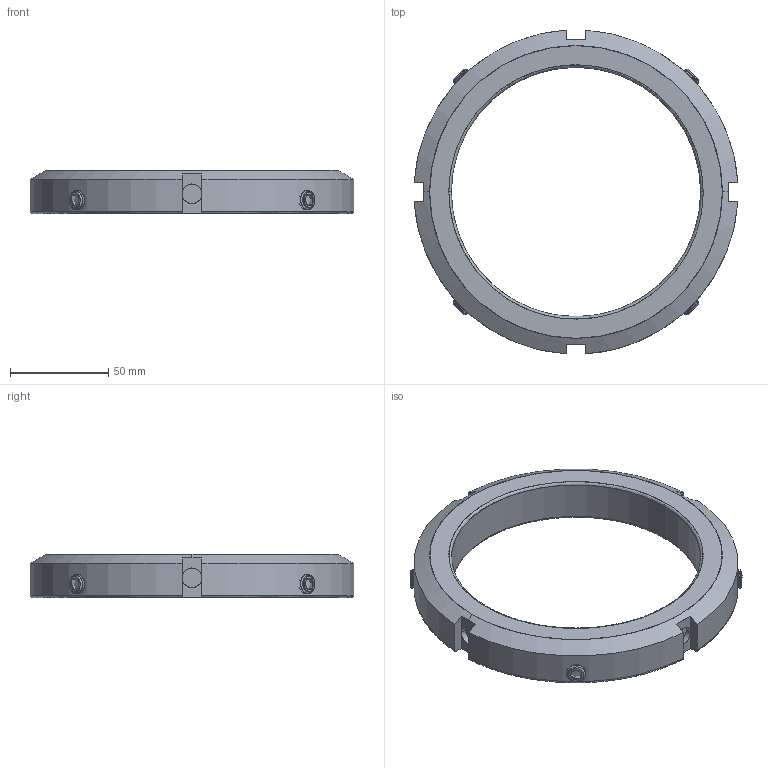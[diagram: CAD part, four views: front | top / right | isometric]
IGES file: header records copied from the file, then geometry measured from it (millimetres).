
Start section: SolidWorks IGES file using analytic representation for surfaces
Global section: file name: C:\Manufacturing Design Services\Taperline Manufacturing\Catalog\TLNKM 26\TLNKM 26 PH.IGS; native system: SolidWorks 2010; preprocessor: SolidWorks 2010; author: ProBook; date: 110807.203903; units: millimetre
Bounding box: 164.7 x 164.7 x 22 mm (x, y, z)
Surface area: 50032.6 mm2 (no closed solid volume)
Topology: 0 solids, 0 shells, 326 faces, 7888 edges, 7888 vertices
Faces by surface type: revolution 248, bspline 78
